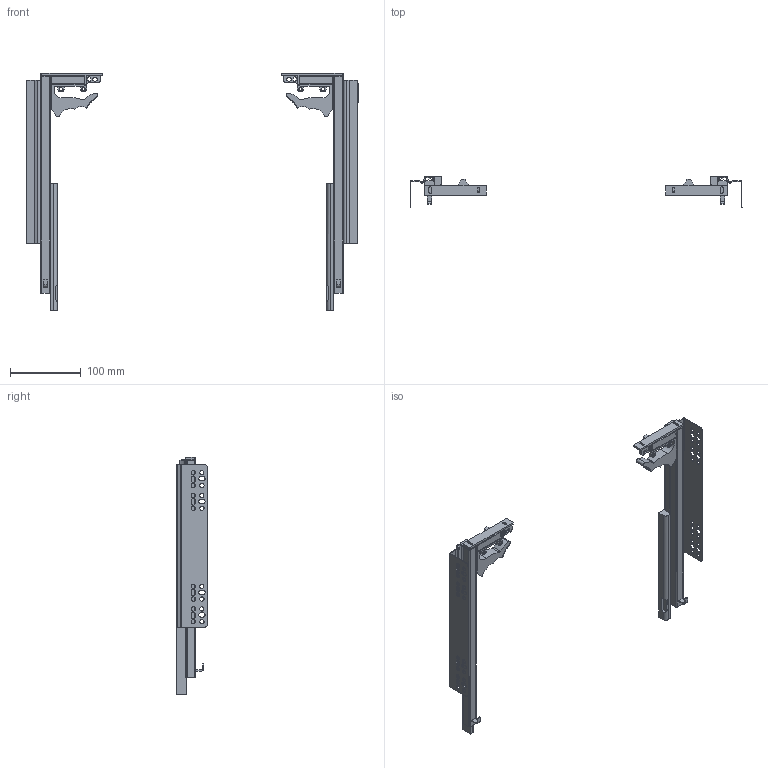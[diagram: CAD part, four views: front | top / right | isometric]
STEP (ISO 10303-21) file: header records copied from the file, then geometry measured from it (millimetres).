
FILE_DESCRIPTION(/* description */ ('Akc'),/* implementation_level */ '2;1');
FILE_NAME(/* name */ 'C:\Users\dmitruk\Documents\WORK\НАПРАВЛЯЮЩИЕ\Скрытого монтажа\Q-Type\Q-Type с замками (16 мм)\Q-Type с замками (16 мм)-300.stp',/* time_stamp */ '2022-04-22T17:47:16+03:00',/* author */ ('dmitruk'),/* organization */ (''),/* preprocessor_version */ 'ST-DEVELOPER v16.5',/* originating_system */ 'Autodesk Inventor 2017',/* authorisation */ '');
FILE_SCHEMA (('AUTOMOTIVE_DESIGN { 1 0 10303 214 3 1 1 }'));
Length unit declared in the file: millimetre
Products named in the file (6): Q-Type с замками 
(16 мм); Q-Type с замками \X2\043E0441
043D043E04320430043D04380435\X0\ L (16 мм); Q-Type с замками \X2\043E0441
043D043E04320430043D04380435\X0\ P (16 мм); Q-Type с замками 
выдвижение P; Крепление QType; Крепление QType P
Assembly tree (6 placements, depth 2):
  Q-Type с замками 
(16 мм)
    Q-Type с замками \X2\043E0441
043D043E04320430043D04380435\X0\ L (16 мм)
    Q-Type с замками 
выдвижение P  x2
    Q-Type с замками \X2\043E0441
043D043E04320430043D04380435\X0\ P (16 мм)
    Крепление QType
    Крепление QType P
Bounding box: 468 x 44 x 335 mm (x, y, z)
Volume: 202605.8 mm3; surface area: 209955.3 mm2
Topology: 16 solids, 16 shells, 578 faces, 1564 edges, 1022 vertices
Faces by surface type: plane 342, cylinder 212, cone 20, bspline 4
Full cylindrical faces by diameter (mm): 4.5 x4, 6 x32
Entity records: 17379 total; most frequent: CARTESIAN_POINT 3013, DIRECTION 2902, ORIENTED_EDGE 2824, EDGE_CURVE 1412, LINE 992, VECTOR 992, AXIS2_PLACEMENT_3D 955, VERTEX_POINT 950
